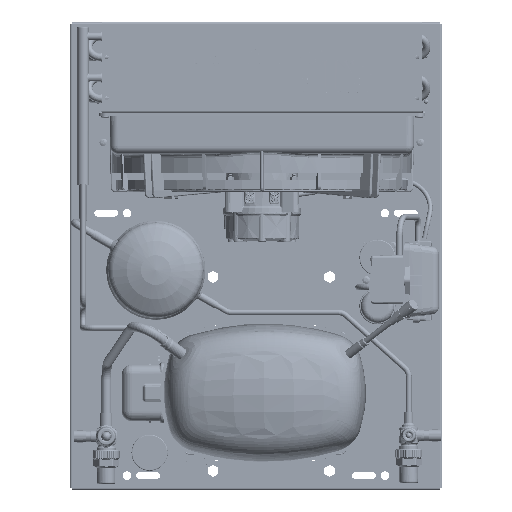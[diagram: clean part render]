
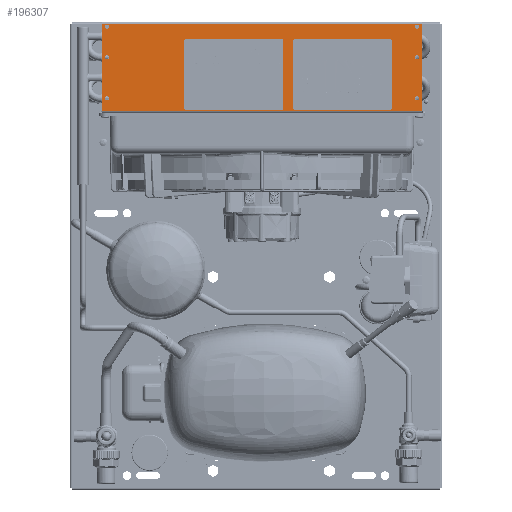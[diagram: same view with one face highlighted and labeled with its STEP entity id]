
A CAD part, top view. The second image highlights one B-rep face of the part: STEP entity #196307.
In plain terms, the highlighted planar face has unit normal (0, 0, 1).
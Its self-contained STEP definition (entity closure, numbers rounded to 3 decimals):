
#14557=CIRCLE('',#239067,2.25);
#14559=CIRCLE('',#239070,2.25);
#14561=CIRCLE('',#239073,2.25);
#14563=CIRCLE('',#239076,2.25);
#14565=CIRCLE('',#239079,2.25);
#14567=CIRCLE('',#239082,2.25);
#26543=ORIENTED_EDGE('',*,*,#84629,.T.);
#26544=ORIENTED_EDGE('',*,*,#84630,.F.);
#26545=ORIENTED_EDGE('',*,*,#84631,.F.);
#26546=ORIENTED_EDGE('',*,*,#84632,.T.);
#26547=ORIENTED_EDGE('',*,*,#84628,.F.);
#26548=ORIENTED_EDGE('',*,*,#84626,.F.);
#26549=ORIENTED_EDGE('',*,*,#84624,.F.);
#26550=ORIENTED_EDGE('',*,*,#84622,.F.);
#26551=ORIENTED_EDGE('',*,*,#84620,.F.);
#26552=ORIENTED_EDGE('',*,*,#84618,.F.);
#84618=EDGE_CURVE('',#114150,#114150,#14557,.T.);
#84620=EDGE_CURVE('',#114152,#114152,#14559,.T.);
#84622=EDGE_CURVE('',#114154,#114154,#14561,.T.);
#84624=EDGE_CURVE('',#114156,#114156,#14563,.T.);
#84626=EDGE_CURVE('',#114158,#114158,#14565,.T.);
#84628=EDGE_CURVE('',#114160,#114160,#14567,.T.);
#84629=EDGE_CURVE('',#114161,#114162,#133263,.T.);
#84630=EDGE_CURVE('',#114163,#114162,#133264,.T.);
#84631=EDGE_CURVE('',#114164,#114163,#133265,.T.);
#84632=EDGE_CURVE('',#114164,#114161,#133266,.T.);
#114150=VERTEX_POINT('',#308513);
#114152=VERTEX_POINT('',#308518);
#114154=VERTEX_POINT('',#308523);
#114156=VERTEX_POINT('',#308528);
#114158=VERTEX_POINT('',#308533);
#114160=VERTEX_POINT('',#308538);
#114161=VERTEX_POINT('',#308541);
#114162=VERTEX_POINT('',#308542);
#114163=VERTEX_POINT('',#308544);
#114164=VERTEX_POINT('',#308546);
#133263=LINE('',#308540,#146904);
#133264=LINE('',#308543,#146905);
#133265=LINE('',#308545,#146906);
#133266=LINE('',#308547,#146907);
#146904=VECTOR('',#259457,1000.);
#146905=VECTOR('',#259458,1000.);
#146906=VECTOR('',#259459,1000.);
#146907=VECTOR('',#259460,1000.);
#161789=EDGE_LOOP('',(#26543,#26544,#26545,#26546));
#161790=EDGE_LOOP('',(#26547));
#161791=EDGE_LOOP('',(#26548));
#161792=EDGE_LOOP('',(#26549));
#161793=EDGE_LOOP('',(#26550));
#161794=EDGE_LOOP('',(#26551));
#161795=EDGE_LOOP('',(#26552));
#176831=FACE_BOUND('',#161789,.T.);
#176832=FACE_BOUND('',#161790,.T.);
#176833=FACE_BOUND('',#161791,.T.);
#176834=FACE_BOUND('',#161792,.T.);
#176835=FACE_BOUND('',#161793,.T.);
#176836=FACE_BOUND('',#161794,.T.);
#176837=FACE_BOUND('',#161795,.T.);
#190319=PLANE('',#239083);
#196307=ADVANCED_FACE('',(#176831,#176832,#176833,#176834,#176835,#176836,
#176837),#190319,.F.);
#239067=AXIS2_PLACEMENT_3D('',#308512,#259423,#259424);
#239070=AXIS2_PLACEMENT_3D('',#308517,#259429,#259430);
#239073=AXIS2_PLACEMENT_3D('',#308522,#259435,#259436);
#239076=AXIS2_PLACEMENT_3D('',#308527,#259441,#259442);
#239079=AXIS2_PLACEMENT_3D('',#308532,#259447,#259448);
#239082=AXIS2_PLACEMENT_3D('',#308537,#259453,#259454);
#239083=AXIS2_PLACEMENT_3D('',#308539,#259455,#259456);
#259423=DIRECTION('',(0.,0.,1.));
#259424=DIRECTION('',(0.,1.,0.));
#259429=DIRECTION('',(0.,0.,1.));
#259430=DIRECTION('',(0.,1.,0.));
#259435=DIRECTION('',(0.,0.,1.));
#259436=DIRECTION('',(0.,1.,0.));
#259441=DIRECTION('',(0.,0.,1.));
#259442=DIRECTION('',(0.,1.,0.));
#259447=DIRECTION('',(0.,0.,1.));
#259448=DIRECTION('',(0.,1.,0.));
#259453=DIRECTION('',(0.,0.,1.));
#259454=DIRECTION('',(0.,1.,0.));
#259455=DIRECTION('',(0.,0.,-1.));
#259456=DIRECTION('',(-1.,0.,0.));
#259457=DIRECTION('',(1.,0.,0.));
#259458=DIRECTION('',(0.,-1.,0.));
#259459=DIRECTION('',(1.,0.,0.));
#259460=DIRECTION('',(0.,-1.,0.));
#308512=CARTESIAN_POINT('',(42.5,162.5,0.));
#308513=CARTESIAN_POINT('',(42.5,164.75,0.));
#308517=CARTESIAN_POINT('',(42.5,-162.5,0.));
#308518=CARTESIAN_POINT('',(42.5,-160.25,0.));
#308522=CARTESIAN_POINT('',(-32.5,-162.5,0.));
#308523=CARTESIAN_POINT('',(-32.5,-160.25,0.));
#308527=CARTESIAN_POINT('',(-32.5,162.5,0.));
#308528=CARTESIAN_POINT('',(-32.5,164.75,0.));
#308532=CARTESIAN_POINT('',(10.5,-162.5,0.));
#308533=CARTESIAN_POINT('',(10.5,-160.25,0.));
#308537=CARTESIAN_POINT('',(10.5,162.5,0.));
#308538=CARTESIAN_POINT('',(10.5,164.75,0.));
#308539=CARTESIAN_POINT('',(-47.5,167.5,0.));
#308540=CARTESIAN_POINT('',(-47.5,-167.5,0.));
#308541=CARTESIAN_POINT('',(-45.5,-167.5,0.));
#308542=CARTESIAN_POINT('',(45.5,-167.5,0.));
#308543=CARTESIAN_POINT('',(45.5,167.5,0.));
#308544=CARTESIAN_POINT('',(45.5,167.5,0.));
#308545=CARTESIAN_POINT('',(-47.5,167.5,0.));
#308546=CARTESIAN_POINT('',(-45.5,167.5,0.));
#308547=CARTESIAN_POINT('',(-45.5,167.5,0.));
